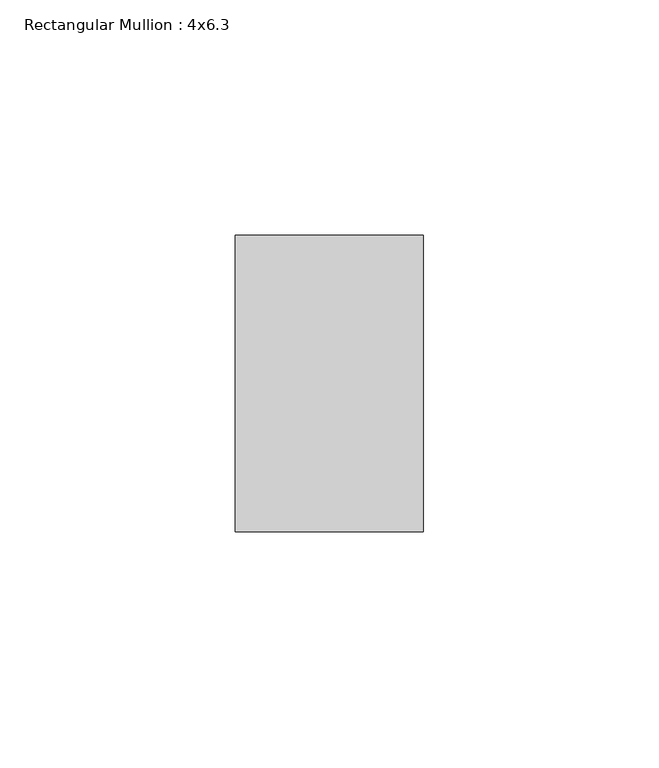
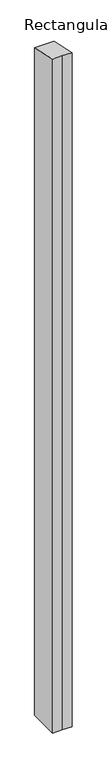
"""IFC4 building model written with IfcOpenShell, lengths in millimetres: member geometry, Rectangular Mullion : 4x6.3."""

import ifcopenshell
import ifcopenshell.guid

model = None  # the IFC model being written
_history = None  # IfcOwnerHistory: only IFC2X3 demands one
_inside = {}  # id of a spatial element -> (the spatial element, [elements in it])
_under = {}  # id of a project, library or spatial element -> (it, [spatial elements below it])
_declared = {}  # id of a project -> (the project, [libraries it declares])
_typed = {}  # id of a type object -> (the type object, [elements of that type])
_made_of = {}  # id of a material, layer set ... -> (it, [elements and type objects made of it])


def new_model(schema):
    """Start an empty IFC model of exactly this schema.

    Asked for "IFC4X3", IfcOpenShell would pick the latest addendum, in which some entities
    have other attributes; the version numbers below select the first issue.
    IFC2X3 requires an IfcOwnerHistory on every rooted entity: one is made here for all.
    """
    global model, _history
    if schema == "IFC4X3":
        model = ifcopenshell.file(schema_version=(4, 3, 0, 0))
    else:
        model = ifcopenshell.file(schema=schema)
    _inside.clear()
    _under.clear()
    _declared.clear()
    _typed.clear()
    _made_of.clear()
    _history = None
    if model.schema == "IFC2X3":
        org = make("IfcOrganization", Name="unknown")
        user = make(
            "IfcPersonAndOrganization",
            ThePerson=make("IfcPerson", FamilyName="unknown"),
            TheOrganization=org,
        )
        app = make(
            "IfcApplication",
            ApplicationDeveloper=org,
            Version="unknown",
            ApplicationFullName="unknown",
            ApplicationIdentifier="unknown",
        )
        _history = make(
            "IfcOwnerHistory",
            OwningUser=user,
            OwningApplication=app,
            ChangeAction="ADDED",
            CreationDate=0,
        )
    return model


def make(cls, **values):
    """One entity of the class cls with the attributes given. An attribute that is None is left unset."""
    return model.create_entity(
        cls, **{name: value for name, value in values.items() if value is not None}
    )


def rooted(cls, **values):
    """An entity with a GlobalId (a new one), such as an element, a storey or a relation."""
    return make(cls, GlobalId=ifcopenshell.guid.new(), OwnerHistory=_history, **values)


def si_unit(unit_type, name, prefix=None):
    """IfcSIUnit, for example si_unit("LENGTHUNIT", "METRE", prefix="MILLI")."""
    return make("IfcSIUnit", UnitType=unit_type, Prefix=prefix, Name=name)


def assignment(units):
    """IfcUnitAssignment: the units of a project."""
    return None if units is None else make("IfcUnitAssignment", Units=units)


def point(xyz):
    """IfcCartesianPoint."""
    return None if xyz is None else make("IfcCartesianPoint", Coordinates=xyz)


def direction(xyz):
    """IfcDirection."""
    return None if xyz is None else make("IfcDirection", DirectionRatios=xyz)


def frame(location, z_axis=None, x_axis=None):
    """IfcAxis2Placement3D, a coordinate frame: its origin and axes. An axis left out is left unset."""
    return make(
        "IfcAxis2Placement3D",
        Location=point(location),
        Axis=direction(z_axis),
        RefDirection=direction(x_axis),
    )


def origin():
    """The frame at (0, 0, 0) with its axes left unset."""
    return frame((0.0, 0.0, 0.0))


def place(relative_to, where):
    """IfcLocalPlacement: puts the frame where relative to a parent placement (None: the world)."""
    return make(
        "IfcLocalPlacement", PlacementRelTo=relative_to, RelativePlacement=where
    )


def context(
    kind, dimensions, precision=None, world=None, true_north=None, identifier=None
):
    """IfcGeometricRepresentationContext, for example the 3D "Model" context."""
    return make(
        "IfcGeometricRepresentationContext",
        ContextIdentifier=identifier,
        ContextType=kind,
        CoordinateSpaceDimension=dimensions,
        Precision=precision,
        WorldCoordinateSystem=world,
        TrueNorth=true_north,
    )


def project(units=None, contexts=None):
    """IfcProject with its units and contexts."""
    return rooted(
        "IfcProject",
        Name="project",
        RepresentationContexts=contexts,
        UnitsInContext=assignment(units),
    )


def spatial(cls, under=None, at=None, **own):
    """A site, building, storey or space (cls), placed at a placement, below another one or the project."""
    s = rooted(cls, ObjectPlacement=at, **own)
    if under is not None:
        _under.setdefault(under.id(), (under, []))[1].append(s)
    return s


def faces_of(points, faces, orient=None, outer=None):
    """IfcFace entities. A face is a list of loops; a loop is a list of indices into points, from 0.

    orient and outer hold one flag for each loop. By default every Orientation is true, the
    first loop of a face is its IfcFaceOuterBound and the others are IfcFaceBound.
    """
    made = []
    for i, loops in enumerate(faces):
        bounds = []
        for j, loop in enumerate(loops):
            is_outer = j == 0 if outer is None else outer[i][j]
            bounds.append(
                make(
                    "IfcFaceOuterBound" if is_outer else "IfcFaceBound",
                    Bound=make("IfcPolyLoop", Polygon=[points[k] for k in loop]),
                    Orientation=True if orient is None else orient[i][j],
                )
            )
        made.append(make("IfcFace", Bounds=bounds))
    return made


def faceted_brep(points, faces, orient=None, outer=None, voids=None):
    """IfcFacetedBrep: a solid bounded by flat faces; with voids (closed shells), ...WithVoids."""
    shared = [point(p) for p in points]
    hull = make("IfcClosedShell", CfsFaces=faces_of(shared, faces, orient, outer))
    if voids is None:
        return make("IfcFacetedBrep", Outer=hull)
    return make(
        "IfcFacetedBrepWithVoids",
        Outer=hull,
        Voids=[
            make(cls, CfsFaces=faces_of(shared, fs, o, b)) for cls, fs, o, b in voids
        ],
    )


def shape(context_of_items, identifier, shape_type, items):
    """IfcShapeRepresentation: the items that make up one representation, for example the "Body"."""
    return make(
        "IfcShapeRepresentation",
        ContextOfItems=context_of_items,
        RepresentationIdentifier=identifier,
        RepresentationType=shape_type,
        Items=items,
    )


def source(mapping_origin, context_of_items, identifier, shape_type, items):
    """IfcRepresentationMap: a shape defined once, which mapped items show again and again."""
    return make(
        "IfcRepresentationMap",
        MappingOrigin=mapping_origin,
        MappedRepresentation=shape(context_of_items, identifier, shape_type, items),
    )


def transform(
    local_origin,
    x_axis=None,
    y_axis=None,
    z_axis=None,
    scale=None,
    scale2=None,
    scale3=None,
    uniform=True,
):
    """IfcCartesianTransformationOperator3D, or its non-uniform kind. x_axis, y_axis, z_axis: its Axis1, 2, 3."""
    if uniform:
        return make(
            "IfcCartesianTransformationOperator3D",
            Axis1=direction(x_axis),
            Axis2=direction(y_axis),
            LocalOrigin=point(local_origin),
            Scale=scale,
            Axis3=direction(z_axis),
        )
    return make(
        "IfcCartesianTransformationOperator3DnonUniform",
        Axis1=direction(x_axis),
        Axis2=direction(y_axis),
        LocalOrigin=point(local_origin),
        Scale=scale,
        Axis3=direction(z_axis),
        Scale2=scale2,
        Scale3=scale3,
    )


def mapped(mapping_source, mapping_target):
    """IfcMappedItem: shows the shape of a source again, moved by a transform."""
    return make(
        "IfcMappedItem", MappingSource=mapping_source, MappingTarget=mapping_target
    )


def made_of(thing, what):
    """Note that an element or type object is made of a material, layer set ...; save() writes the relation."""
    if what is not None:
        _made_of.setdefault(what.id(), (what, []))[1].append(thing)
    return thing


def element(
    cls,
    number,
    at=None,
    inside=None,
    cuts=None,
    type_object=None,
    material=None,
    context=None,
    identifier="Body",
    shape_type=None,
    held_by="IfcProductDefinitionShape",
    body=None,
    shapes=None,
    **own,
):
    """One element of the class cls, such as IfcWall. Its Tag is "e" and its number.

    at: its placement. inside: the storey or other place that contains it. cuts: it is an
    opening in that element (IfcRelVoidsElement). A single representation is given by context,
    identifier, shape_type and body (its items); several are given by shapes. held_by: the class
    of the entity that holds the representations. save() writes the other relations.
    """
    e = rooted(cls, Tag="e%d" % number, ObjectPlacement=at, **own)
    if body is not None:
        shapes = [shape(context, identifier, shape_type, body)]
    if shapes is not None:
        e.Representation = make(held_by, Representations=shapes)
    if inside is not None:
        _inside.setdefault(inside.id(), (inside, []))[1].append(e)
    if cuts is not None:
        rooted(
            "IfcRelVoidsElement", RelatingBuildingElement=cuts, RelatedOpeningElement=e
        )
    if type_object is not None:
        _typed.setdefault(type_object.id(), (type_object, []))[1].append(e)
    return made_of(e, material)


def aggregate(whole, parts):
    """IfcRelAggregates: a whole, such as a stair, and the parts it consists of."""
    return rooted("IfcRelAggregates", RelatingObject=whole, RelatedObjects=parts)


def save(model, path):
    """Write the relations noted so far, then the file.

    IfcRelAggregates (storeys below a building ...), IfcRelContainedInSpatialStructure (elements
    in a storey), IfcRelDefinesByType, IfcRelAssociatesMaterial and IfcRelDeclares: one each for
    every whole, place, type object, material and project.
    """
    for whole, parts in _under.values():
        aggregate(whole, parts)
    for where, things in _inside.values():
        rooted(
            "IfcRelContainedInSpatialStructure",
            RelatedElements=things,
            RelatingStructure=where,
        )
    for kind, things in _typed.values():
        rooted("IfcRelDefinesByType", RelatedObjects=things, RelatingType=kind)
    for what, things in _made_of.values():
        rooted("IfcRelAssociatesMaterial", RelatedObjects=things, RelatingMaterial=what)
    for by, libraries in _declared.values():
        rooted("IfcRelDeclares", RelatingContext=by, RelatedDefinitions=libraries)
    model.write(path)


def rectangular_mullion_4x6_3_52b6ead7(model_context):
    return source(origin(), model_context, "Body", "Brep", [
        faceted_brep([(-20.0, 20.0, -1461.3942421), (-20.0, 83.0, -1461.3942421), (20.0, 83.0, -1461.3942421), (20.0, 20.0, -1461.3942421), (0.0, 20.0, -1461.3942421), (0.0, 20.0, -4.3995804), (-20.0, 20.0, -4.3995804), (20.0, 20.0, -4.3995804), (20.0, 83.0, -18.2582585), (-20.0, 83.0, -18.2582585)], [[[0, 1, 2, 3, 4]], [[5, 6, 0, 4]], [[7, 5, 4, 3]], [[8, 7, 3, 2]], [[9, 8, 2, 1]], [[6, 9, 1, 0]], [[6, 5, 7, 8, 9]]]),
    ])


if __name__ == "__main__":
    model = new_model("IFC4")
    model_context = context("Model", 3, world=origin())
    ifc_project = project(units=[si_unit("LENGTHUNIT", "METRE", prefix="MILLI")], contexts=[model_context])
    site = spatial("IfcSite", under=ifc_project)
    building = spatial("IfcBuilding", under=site)
    placement = place(None, origin())
    rectangular_mullion_4x6_3_shape = rectangular_mullion_4x6_3_52b6ead7(model_context)
    element("IfcMember", 1, ObjectType="Rectangular Mullion : 4x6.3", at=placement, inside=building, context=model_context, shape_type="MappedRepresentation", body=[
        mapped(rectangular_mullion_4x6_3_shape, transform((0.0, 0.0, 0.0), x_axis=(1.0, 0.0, 0.0), y_axis=(0.0, 1.0, 0.0), z_axis=(0.0, 0.0, 1.0))),
    ])
    save(model, "model.ifc")
